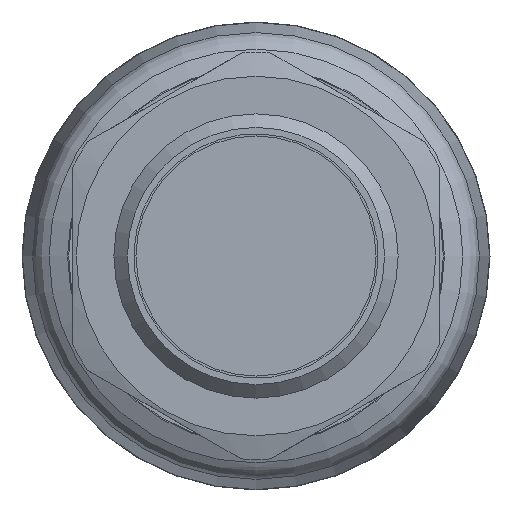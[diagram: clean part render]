
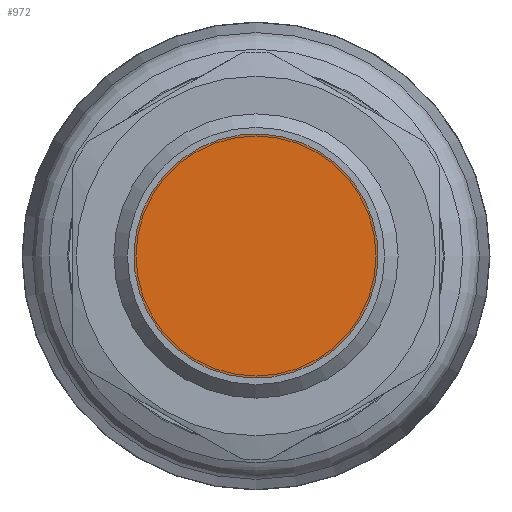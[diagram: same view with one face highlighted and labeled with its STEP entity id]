
A CAD part, left-side view. The second image highlights one B-rep face of the part: STEP entity #972.
In plain terms, the highlighted planar face has unit normal (-1, 0, 0).
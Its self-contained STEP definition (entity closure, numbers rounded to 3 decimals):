
#288=FACE_OUTER_BOUND('',#397,.T.);
#397=EDGE_LOOP('',(#849));
#495=CIRCLE('',#1100,9.);
#583=VERTEX_POINT('',#1674);
#680=EDGE_CURVE('',#583,#583,#495,.T.);
#849=ORIENTED_EDGE('',*,*,#680,.T.);
#924=PLANE('',#1102);
#972=ADVANCED_FACE('',(#288),#924,.T.);
#1100=AXIS2_PLACEMENT_3D('',#1675,#1357,#1358);
#1102=AXIS2_PLACEMENT_3D('',#1677,#1361,#1362);
#1357=DIRECTION('center_axis',(-1.,0.,0.));
#1358=DIRECTION('ref_axis',(0.,-0.924,-0.383));
#1361=DIRECTION('center_axis',(-1.,0.,0.));
#1362=DIRECTION('ref_axis',(0.,-0.383,0.924));
#1674=CARTESIAN_POINT('',(-69.53,8.314,3.447));
#1675=CARTESIAN_POINT('Origin',(-69.53,0.,0.));
#1677=CARTESIAN_POINT('Origin',(-69.53,0.,0.));
